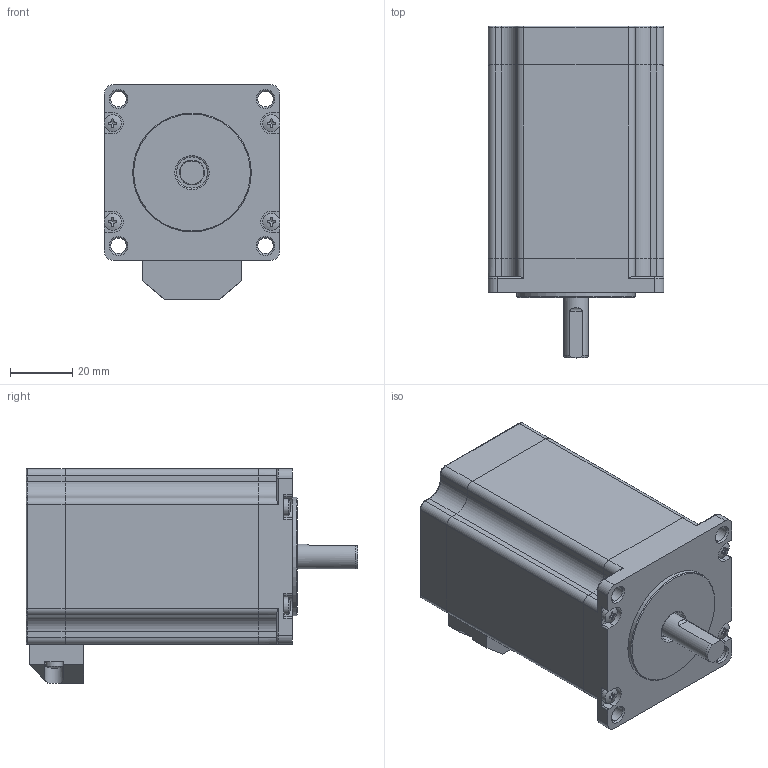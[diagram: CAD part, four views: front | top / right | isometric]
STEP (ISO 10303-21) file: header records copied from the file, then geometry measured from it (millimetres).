
FILE_DESCRIPTION( ('This file contains a STEP AP42 implementation' ,'as created by ZW3D STEP Interface translator.' ,'') ,'2;1' );
FILE_NAME( 'AM510A-57A0250-0000.stp' ,'24 724.165844', (''), ('ZWCAD Software Co.'), 'Version 1.0', 'ZW3D to STEP translator', '' );
FILE_SCHEMA(('AUTOMOTIVE_DESIGN { 1 0 10303 214 1 1 1 1 }'));
Length unit declared in the file: millimetre
Products named in the file (5): 0; 57HS085DF045X-03; 57HS085DF045X-03(默认); 蹟隊 GB_T 823-M3x30_5; 蹟隊 GB_T 823-M3x8_2
Assembly tree (7 placements, depth 2):
  0
  57HS085DF045X-03
    57HS085DF045X-03(默认)
    蹟隊 GB_T 823-M3x30_5  x4
    蹟隊 GB_T 823-M3x8_2  x2
Bounding box: 56.44 x 106.5 x 68.9 mm (x, y, z)
Volume: 253566.5 mm3; surface area: 41493.1 mm2
Topology: 12 solids, 12 shells, 338 faces, 851 edges, 540 vertices
Faces by surface type: plane 143, cylinder 140, cone 25, torus 24, sphere 6
Full cylindrical faces by diameter (mm): 2.5 x8, 3 x12, 3.2 x6, 5 x4, 5.5 x6, 8 x2, 10 x2, 38.1 x1
Entity records: 8310 total; most frequent: CARTESIAN_POINT 1482, DIRECTION 1416, ORIENTED_EDGE 1290, EDGE_CURVE 645, AXIS2_PLACEMENT_3D 540, VERTEX_POINT 412, VECTOR 336, LINE 336
